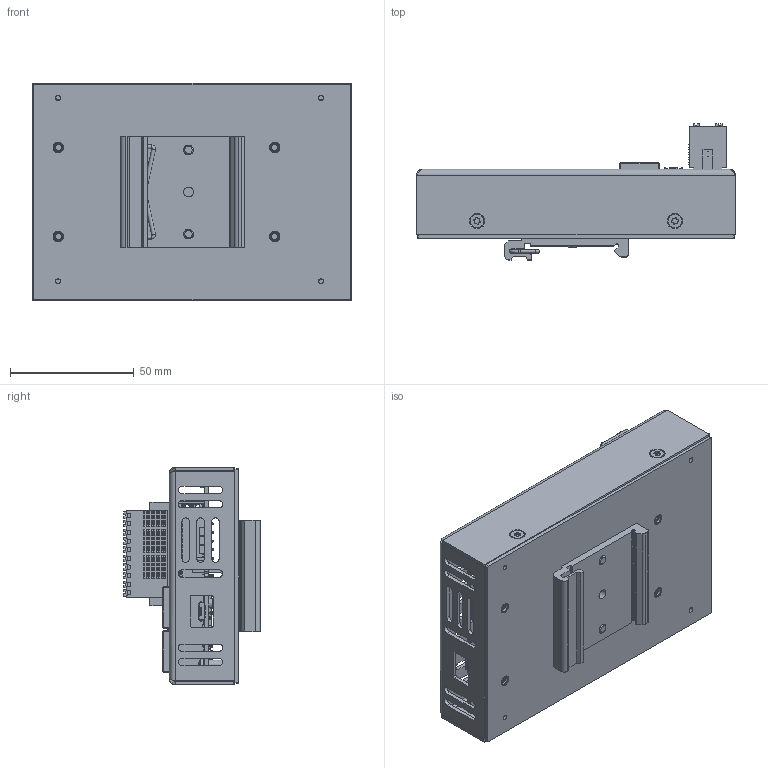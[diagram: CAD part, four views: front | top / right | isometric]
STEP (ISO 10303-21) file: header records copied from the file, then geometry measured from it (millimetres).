
FILE_DESCRIPTION (( 'STEP AP214' ), '1' );
FILE_NAME ('CC-Pi im Hutschienengehäuse_SingleSolid_NzI_Entwurf25062026.STEP', '2026-06-25T08:22:06', ( '' ), ( '' ), 'SwSTEP 2.0', 'SolidWorks 2024', '' );
FILE_SCHEMA (( 'AUTOMOTIVE_DESIGN' ));
Products named in the file (1): CC-Pi im Hutschienengehäuse_SingleSolid_NzI_Entwurf25062026
Bounding box: 129 x 55.05 x 88 mm (x, y, z)
Volume: 94438.4 mm3; surface area: 106289.7 mm2
Topology: 1 solids, 7 shells, 7424 faces, 20118 edges, 12937 vertices
Faces by surface type: plane 5535, cylinder 1525, bspline 191, cone 74, torus 53, sphere 46
Full cylindrical faces by diameter (mm): 0.5 x2, 0.9 x24, 1 x16, 1.3 x20, 1.4 x22, 1.5 x6, 1.6 x10, 1.7 x2, 2 x2, 2.1 x4, 2.2 x2, 2.3 x2, 2.5 x11, 2.7 x7, 2.85 x2, 3 x6, 3.1 x4, 3.125 x4, 3.59 x4, 3.876 x2, 4 x9, 4.19 x4, 4.2 x6, 4.22 x4, 4.25 x4, 4.8 x4, 5 x4, 5.5 x6, 6.3 x4, 8 x2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
Entity records: 235009 total; most frequent: CARTESIAN_POINT 50065, ORIENTED_EDGE 39470, DIRECTION 36088, EDGE_CURVE 19735, LINE 15718, VECTOR 15718, VERTEX_POINT 12842, AXIS2_PLACEMENT_3D 10185
